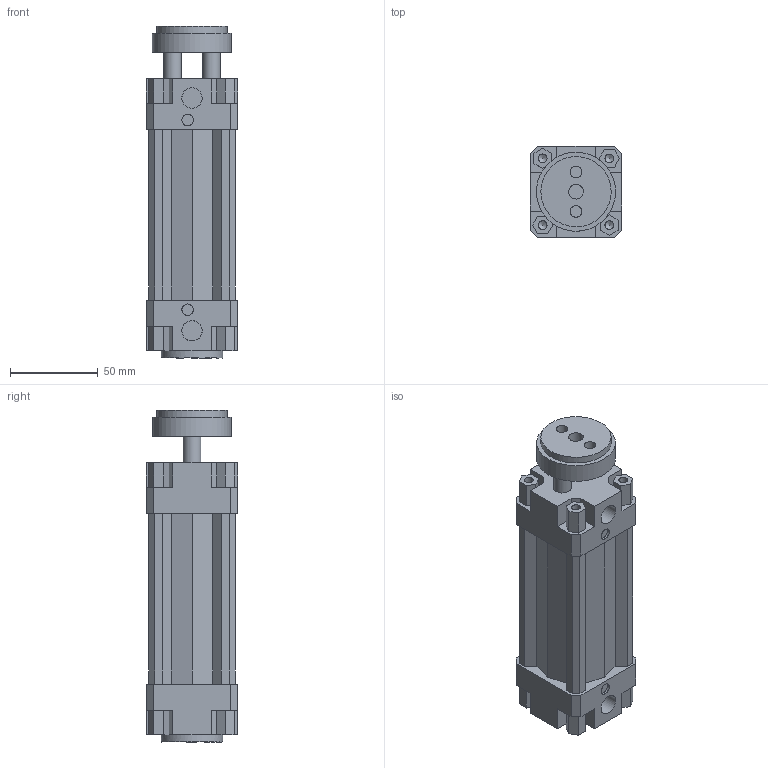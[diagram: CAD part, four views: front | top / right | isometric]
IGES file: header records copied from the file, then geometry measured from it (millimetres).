
Global section: file name: 132#_040_0050_01; native system: Autodesk Inventor 2014; preprocessor: unknown; author: A. Manieri; date: 20161006.154745; units: millimetre
Bounding box: 52 x 52 x 189 mm (x, y, z)
Volume: 298730.5 mm3; surface area: 82090.2 mm2
Topology: 2 solids, 2 shells, 180 faces, 492 edges, 336 vertices
Faces by surface type: bspline 180
